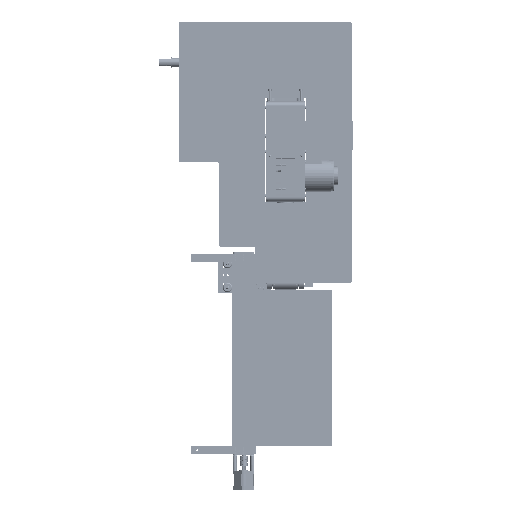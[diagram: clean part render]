
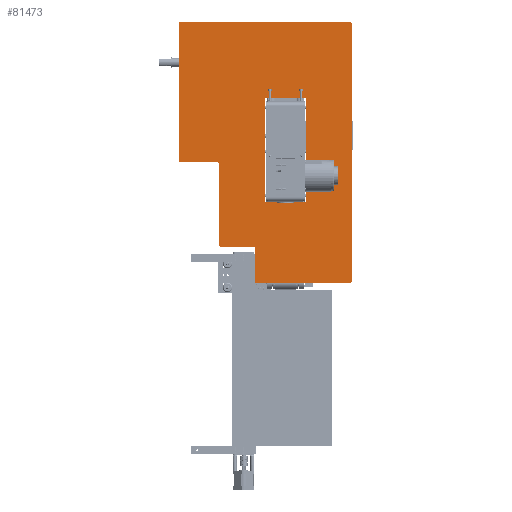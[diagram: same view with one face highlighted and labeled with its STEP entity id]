
A CAD part, front view. The second image highlights one B-rep face of the part: STEP entity #81473.
In plain terms, the highlighted planar face has unit normal (0, -1, 0) as drawn and (0, 0, 1) by its records, which use the part's own axes.
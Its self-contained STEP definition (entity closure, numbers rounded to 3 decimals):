
#5168=FACE_BOUND('',#19075,.T.);
#7770=CIRCLE('',#90831,5.);
#7773=CIRCLE('',#90836,5.);
#7774=CIRCLE('',#90839,2.);
#13726=FACE_OUTER_BOUND('',#19074,.T.);
#19074=EDGE_LOOP('',(#73593,#73594,#73595,#73596,#73597,#73598,#73599,#73600,
#73601,#73602,#73603,#73604,#73605,#73606));
#19075=EDGE_LOOP('',(#73607,#73608,#73609,#73610));
#25906=LINE('',#170177,#32852);
#25913=LINE('',#170195,#32859);
#25929=LINE('',#170230,#32875);
#25930=LINE('',#170232,#32876);
#25931=LINE('',#170235,#32877);
#25932=LINE('',#170237,#32878);
#25933=LINE('',#170239,#32879);
#25934=LINE('',#170241,#32880);
#25935=LINE('',#170243,#32881);
#25936=LINE('',#170245,#32882);
#25937=LINE('',#170246,#32883);
#25938=LINE('',#170249,#32884);
#25939=LINE('',#170251,#32885);
#25940=LINE('',#170253,#32886);
#25941=LINE('',#170254,#32887);
#32852=VECTOR('',#111916,10.);
#32859=VECTOR('',#111931,10.);
#32875=VECTOR('',#111957,10.);
#32876=VECTOR('',#111960,10.);
#32877=VECTOR('',#111963,10.);
#32878=VECTOR('',#111964,10.);
#32879=VECTOR('',#111965,10.);
#32880=VECTOR('',#111966,10.);
#32881=VECTOR('',#111967,10.);
#32882=VECTOR('',#111968,10.);
#32883=VECTOR('',#111969,10.);
#32884=VECTOR('',#111970,10.);
#32885=VECTOR('',#111971,10.);
#32886=VECTOR('',#111972,10.);
#32887=VECTOR('',#111973,10.);
#40308=VERTEX_POINT('',#170167);
#40309=VERTEX_POINT('',#170168);
#40312=VERTEX_POINT('',#170176);
#40316=VERTEX_POINT('',#170185);
#40317=VERTEX_POINT('',#170187);
#40319=VERTEX_POINT('',#170193);
#40320=VERTEX_POINT('',#170197);
#40321=VERTEX_POINT('',#170198);
#40334=VERTEX_POINT('',#170234);
#40335=VERTEX_POINT('',#170236);
#40336=VERTEX_POINT('',#170238);
#40337=VERTEX_POINT('',#170240);
#40338=VERTEX_POINT('',#170242);
#40339=VERTEX_POINT('',#170244);
#40340=VERTEX_POINT('',#170247);
#40341=VERTEX_POINT('',#170248);
#40342=VERTEX_POINT('',#170250);
#40343=VERTEX_POINT('',#170252);
#51452=EDGE_CURVE('',#40308,#40309,#7770,.T.);
#51456=EDGE_CURVE('',#40309,#40312,#25906,.T.);
#51461=EDGE_CURVE('',#40316,#40317,#7773,.T.);
#51465=EDGE_CURVE('',#40316,#40319,#25913,.T.);
#51466=EDGE_CURVE('',#40320,#40321,#7774,.T.);
#51483=EDGE_CURVE('',#40308,#40321,#25929,.T.);
#51484=EDGE_CURVE('',#40320,#40317,#25930,.T.);
#51485=EDGE_CURVE('',#40319,#40334,#25931,.T.);
#51486=EDGE_CURVE('',#40335,#40334,#25932,.T.);
#51487=EDGE_CURVE('',#40335,#40336,#25933,.T.);
#51488=EDGE_CURVE('',#40337,#40336,#25934,.T.);
#51489=EDGE_CURVE('',#40337,#40338,#25935,.T.);
#51490=EDGE_CURVE('',#40339,#40338,#25936,.T.);
#51491=EDGE_CURVE('',#40312,#40339,#25937,.T.);
#51492=EDGE_CURVE('',#40340,#40341,#25938,.T.);
#51493=EDGE_CURVE('',#40341,#40342,#25939,.T.);
#51494=EDGE_CURVE('',#40342,#40343,#25940,.T.);
#51495=EDGE_CURVE('',#40343,#40340,#25941,.T.);
#73593=ORIENTED_EDGE('',*,*,#51466,.F.);
#73594=ORIENTED_EDGE('',*,*,#51484,.T.);
#73595=ORIENTED_EDGE('',*,*,#51461,.F.);
#73596=ORIENTED_EDGE('',*,*,#51465,.T.);
#73597=ORIENTED_EDGE('',*,*,#51485,.T.);
#73598=ORIENTED_EDGE('',*,*,#51486,.F.);
#73599=ORIENTED_EDGE('',*,*,#51487,.T.);
#73600=ORIENTED_EDGE('',*,*,#51488,.F.);
#73601=ORIENTED_EDGE('',*,*,#51489,.T.);
#73602=ORIENTED_EDGE('',*,*,#51490,.F.);
#73603=ORIENTED_EDGE('',*,*,#51491,.F.);
#73604=ORIENTED_EDGE('',*,*,#51456,.F.);
#73605=ORIENTED_EDGE('',*,*,#51452,.F.);
#73606=ORIENTED_EDGE('',*,*,#51483,.T.);
#73607=ORIENTED_EDGE('',*,*,#51492,.T.);
#73608=ORIENTED_EDGE('',*,*,#51493,.T.);
#73609=ORIENTED_EDGE('',*,*,#51494,.T.);
#73610=ORIENTED_EDGE('',*,*,#51495,.T.);
#77084=PLANE('',#90844);
#81473=ADVANCED_FACE('',(#13726,#5168),#77084,.T.);
#90831=AXIS2_PLACEMENT_3D('',#170169,#111908,#111909);
#90836=AXIS2_PLACEMENT_3D('',#170188,#111924,#111925);
#90839=AXIS2_PLACEMENT_3D('',#170199,#111934,#111935);
#90844=AXIS2_PLACEMENT_3D('',#170233,#111961,#111962);
#111908=DIRECTION('center_axis',(0.,0.,1.));
#111909=DIRECTION('ref_axis',(-0.707,0.707,0.));
#111916=DIRECTION('',(0.,-1.,0.));
#111924=DIRECTION('center_axis',(0.,0.,1.));
#111925=DIRECTION('ref_axis',(-0.707,0.707,0.));
#111931=DIRECTION('',(1.,0.,0.));
#111934=DIRECTION('center_axis',(0.,0.,-1.));
#111935=DIRECTION('ref_axis',(0.707,-0.707,0.));
#111957=DIRECTION('',(1.,0.,0.));
#111960=DIRECTION('',(0.,1.,0.));
#111961=DIRECTION('center_axis',(0.,0.,1.));
#111962=DIRECTION('ref_axis',(1.,0.,0.));
#111963=DIRECTION('',(0.,1.,0.));
#111964=DIRECTION('',(0.707,-0.707,0.));
#111965=DIRECTION('',(-1.,0.,0.));
#111966=DIRECTION('',(0.707,0.707,0.));
#111967=DIRECTION('',(0.,-1.,0.));
#111968=DIRECTION('',(-0.707,0.707,0.));
#111969=DIRECTION('',(-1.,0.,0.));
#111970=DIRECTION('',(1.,0.,0.));
#111971=DIRECTION('',(0.,-1.,0.));
#111972=DIRECTION('',(-1.,0.,0.));
#111973=DIRECTION('',(0.,1.,0.));
#170167=CARTESIAN_POINT('',(-277.9,-132.5,10.));
#170168=CARTESIAN_POINT('',(-282.9,-137.5,10.));
#170169=CARTESIAN_POINT('Origin',(-277.9,-137.5,10.));
#170176=CARTESIAN_POINT('',(-282.9,-232.5,10.));
#170177=CARTESIAN_POINT('',(-282.9,-207.5,10.));
#170185=CARTESIAN_POINT('',(-67.9,-42.5,10.));
#170187=CARTESIAN_POINT('',(-72.9,-47.5,10.));
#170188=CARTESIAN_POINT('Origin',(-67.9,-47.5,10.));
#170193=CARTESIAN_POINT('',(17.1,-42.5,10.));
#170195=CARTESIAN_POINT('',(-145.4,-42.5,10.));
#170197=CARTESIAN_POINT('',(-72.9,-130.5,10.));
#170198=CARTESIAN_POINT('',(-74.9,-132.5,10.));
#170199=CARTESIAN_POINT('Origin',(-74.9,-130.5,10.));
#170230=CARTESIAN_POINT('',(-632.9,-132.5,10.));
#170232=CARTESIAN_POINT('',(-72.9,-5.,10.));
#170233=CARTESIAN_POINT('Origin',(-307.9,32.5,10.));
#170234=CARTESIAN_POINT('',(17.1,195.5,10.));
#170235=CARTESIAN_POINT('',(17.1,-132.5,10.));
#170236=CARTESIAN_POINT('',(15.1,197.5,10.));
#170237=CARTESIAN_POINT('',(-23.9,236.5,10.));
#170238=CARTESIAN_POINT('',(-630.9,197.5,10.));
#170239=CARTESIAN_POINT('',(17.1,197.5,10.));
#170240=CARTESIAN_POINT('',(-632.9,195.5,10.));
#170241=CARTESIAN_POINT('',(-591.9,236.5,10.));
#170242=CARTESIAN_POINT('',(-632.9,-230.5,10.));
#170243=CARTESIAN_POINT('',(-632.9,197.5,10.));
#170244=CARTESIAN_POINT('',(-630.9,-232.5,10.));
#170245=CARTESIAN_POINT('',(-616.9,-246.5,10.));
#170246=CARTESIAN_POINT('',(-545.4,-232.5,10.));
#170247=CARTESIAN_POINT('',(-443.123,82.5,10.));
#170248=CARTESIAN_POINT('',(-183.123,82.5,10.));
#170249=CARTESIAN_POINT('',(-443.123,82.5,10.));
#170250=CARTESIAN_POINT('',(-183.123,-17.5,10.));
#170251=CARTESIAN_POINT('',(-183.123,82.5,10.));
#170252=CARTESIAN_POINT('',(-443.123,-17.5,10.));
#170253=CARTESIAN_POINT('',(-183.123,-17.5,10.));
#170254=CARTESIAN_POINT('',(-443.123,-17.5,10.));
